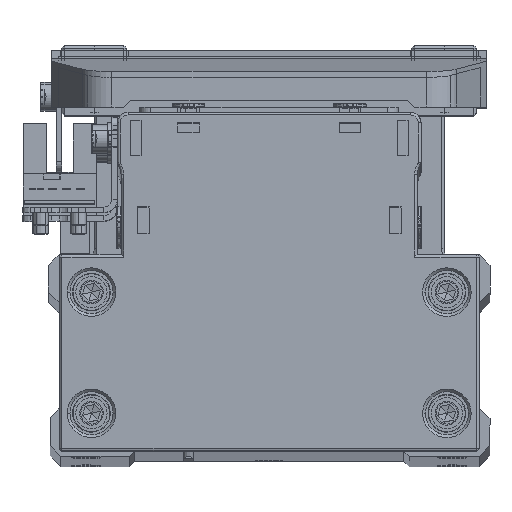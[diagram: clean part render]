
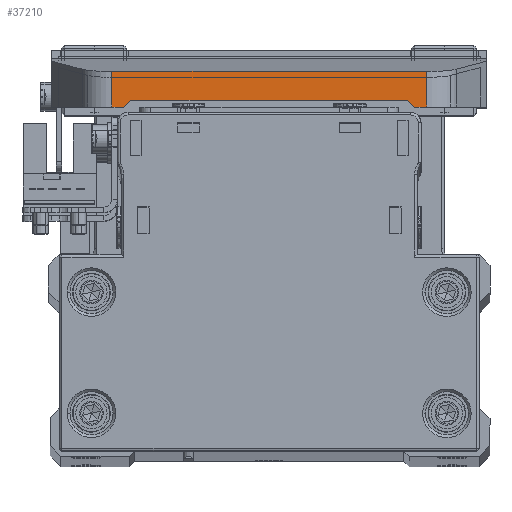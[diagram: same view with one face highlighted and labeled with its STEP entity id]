
A CAD part, top view. The second image highlights one B-rep face of the part: STEP entity #37210.
In plain terms, the highlighted planar face has unit normal (0, 0, 1) as drawn and (-1, 0, 0) by its records, which use the part's own axes.
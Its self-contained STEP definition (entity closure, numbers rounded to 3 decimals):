
#1707 = VERTEX_POINT ( 'NONE', #34033 ) ;
#1711 = CARTESIAN_POINT ( 'NONE',  ( -67.5, 9.3, -25.5 ) ) ;
#2220 = CARTESIAN_POINT ( 'NONE',  ( -67.5, 4., 40.4 ) ) ;
#2656 = LINE ( 'NONE', #14837, #25524 ) ;
#2957 = VECTOR ( 'NONE', #14385, 1000. ) ;
#3069 = DIRECTION ( 'NONE',  ( 0., 0., -1. ) ) ;
#3076 = DIRECTION ( 'NONE',  ( 0., 1., 0. ) ) ;
#3554 = ORIENTED_EDGE ( 'NONE', *, *, #23389, .T. ) ;
#4176 = EDGE_CURVE ( 'NONE', #1707, #33194, #10434, .T. ) ;
#4399 = VECTOR ( 'NONE', #29344, 1000. ) ;
#4580 = VERTEX_POINT ( 'NONE', #22334 ) ;
#5053 = LINE ( 'NONE', #17222, #4399 ) ;
#5616 = EDGE_CURVE ( 'NONE', #11566, #29649, #29506, .T. ) ;
#6387 = VECTOR ( 'NONE', #3076, 1000. ) ;
#6615 = DIRECTION ( 'NONE',  ( 0., 0., -1. ) ) ;
#6913 = AXIS2_PLACEMENT_3D ( 'NONE', #21758, #33873, #6615 ) ;
#7558 = CARTESIAN_POINT ( 'NONE',  ( -67.5, 4., 29.225 ) ) ;
#9625 = PLANE ( 'NONE',  #6913 ) ;
#10434 = LINE ( 'NONE', #22571, #20961 ) ;
#10751 = DIRECTION ( 'NONE',  ( 0., 0.655, -0.756 ) ) ;
#10763 = ORIENTED_EDGE ( 'NONE', *, *, #5616, .F. ) ;
#11566 = VERTEX_POINT ( 'NONE', #7558 ) ;
#12047 = VERTEX_POINT ( 'NONE', #1711 ) ;
#13803 = EDGE_CURVE ( 'NONE', #27184, #31263, #5053, .T. ) ;
#14385 = DIRECTION ( 'NONE',  ( 0., 0., -1. ) ) ;
#14436 = VECTOR ( 'NONE', #39335, 1000. ) ;
#14837 = CARTESIAN_POINT ( 'NONE',  ( -67.5, 4., -29.225 ) ) ;
#14904 = ORIENTED_EDGE ( 'NONE', *, *, #13803, .T. ) ;
#15093 = LINE ( 'NONE', #27219, #14436 ) ;
#15100 = EDGE_CURVE ( 'NONE', #33194, #12047, #18219, .T. ) ;
#15384 = ORIENTED_EDGE ( 'NONE', *, *, #25821, .T. ) ;
#16433 = EDGE_CURVE ( 'NONE', #11566, #4580, #18224, .T. ) ;
#17104 = VECTOR ( 'NONE', #3069, 1000. ) ;
#17222 = CARTESIAN_POINT ( 'NONE',  ( -67.5, 10.6, 40.4 ) ) ;
#18219 = LINE ( 'NONE', #30339, #17104 ) ;
#18224 = LINE ( 'NONE', #30345, #6387 ) ;
#18911 = ORIENTED_EDGE ( 'NONE', *, *, #16433, .T. ) ;
#20092 = CARTESIAN_POINT ( 'NONE',  ( -67.5, 4., -29.225 ) ) ;
#20961 = VECTOR ( 'NONE', #34681, 1000. ) ;
#21758 = CARTESIAN_POINT ( 'NONE',  ( -67.5, 10.6, 40.4 ) ) ;
#21864 = EDGE_CURVE ( 'NONE', #4580, #1707, #15093, .T. ) ;
#22085 = VECTOR ( 'NONE', #10751, 1000. ) ;
#22334 = CARTESIAN_POINT ( 'NONE',  ( -67.5, 10.6, 29.225 ) ) ;
#22571 = CARTESIAN_POINT ( 'NONE',  ( -67.5, 10.6, 27. ) ) ;
#23389 = EDGE_CURVE ( 'NONE', #12047, #27184, #25874, .T. ) ;
#25047 = CARTESIAN_POINT ( 'NONE',  ( -67.5, 10.6, -29.225 ) ) ;
#25524 = VECTOR ( 'NONE', #26959, 1000. ) ;
#25821 = EDGE_CURVE ( 'NONE', #31263, #29649, #2656, .T. ) ;
#25874 = LINE ( 'NONE', #37980, #22085 ) ;
#26899 = ORIENTED_EDGE ( 'NONE', *, *, #4176, .T. ) ;
#26959 = DIRECTION ( 'NONE',  ( 0., -1., 0. ) ) ;
#27184 = VERTEX_POINT ( 'NONE', #32562 ) ;
#27219 = CARTESIAN_POINT ( 'NONE',  ( -67.5, 10.6, 40.4 ) ) ;
#29344 = DIRECTION ( 'NONE',  ( 0., 0., -1. ) ) ;
#29506 = LINE ( 'NONE', #2220, #2957 ) ;
#29649 = VERTEX_POINT ( 'NONE', #20092 ) ;
#29679 = CARTESIAN_POINT ( 'NONE',  ( -67.5, 9.3, 25.5 ) ) ;
#30339 = CARTESIAN_POINT ( 'NONE',  ( -67.5, 9.3, 25.5 ) ) ;
#30345 = CARTESIAN_POINT ( 'NONE',  ( -67.5, 10.6, 29.225 ) ) ;
#31263 = VERTEX_POINT ( 'NONE', #25047 ) ;
#31517 = ORIENTED_EDGE ( 'NONE', *, *, #21864, .T. ) ;
#32562 = CARTESIAN_POINT ( 'NONE',  ( -67.5, 10.6, -27. ) ) ;
#33194 = VERTEX_POINT ( 'NONE', #29679 ) ;
#33873 = DIRECTION ( 'NONE',  ( 1., 0., 0. ) ) ;
#33883 = ORIENTED_EDGE ( 'NONE', *, *, #15100, .T. ) ;
#34033 = CARTESIAN_POINT ( 'NONE',  ( -67.5, 10.6, 27. ) ) ;
#34681 = DIRECTION ( 'NONE',  ( 0., -0.655, -0.756 ) ) ;
#36853 = FACE_OUTER_BOUND ( 'NONE', #37929, .T. ) ;
#37210 = ADVANCED_FACE ( 'NONE', ( #36853 ), #9625, .F. ) ;
#37929 = EDGE_LOOP ( 'NONE', ( #33883, #3554, #14904, #15384, #10763, #18911, #31517, #26899 ) ) ;
#37980 = CARTESIAN_POINT ( 'NONE',  ( -67.5, 10.6, -27. ) ) ;
#39335 = DIRECTION ( 'NONE',  ( 0., 0., -1. ) ) ;
